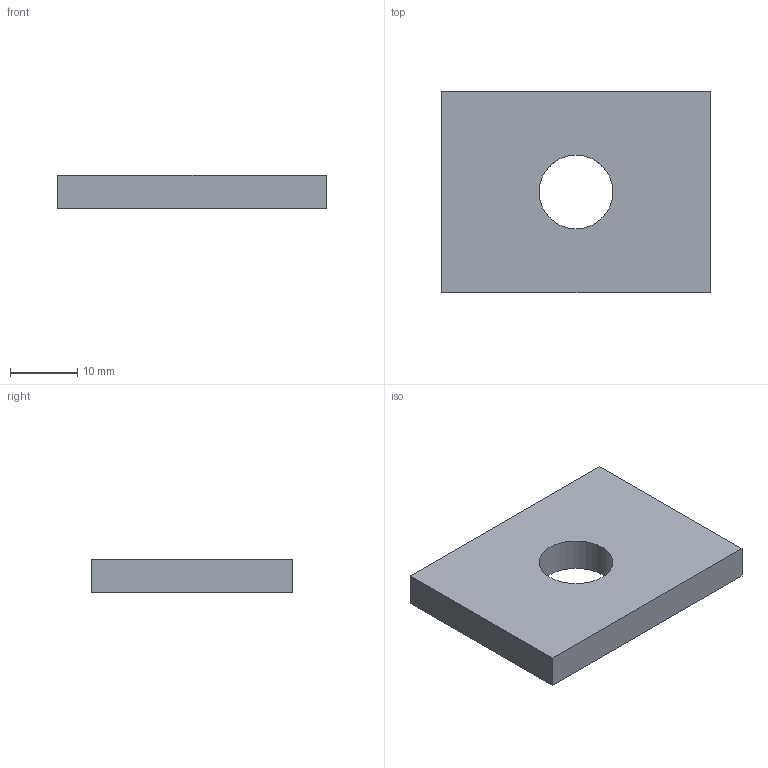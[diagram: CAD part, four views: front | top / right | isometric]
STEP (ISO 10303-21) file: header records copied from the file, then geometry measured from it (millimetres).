
FILE_DESCRIPTION(('Open CASCADE Model'),'2;1');
FILE_NAME('Open CASCADE Shape Model','2026-10-26T07:39:07',('Author'),( 'Open CASCADE'),'Open CASCADE STEP processor 7.9','Open CASCADE 7.9' ,'Unknown');
FILE_SCHEMA(('AUTOMOTIVE_DESIGN { 1 0 10303 214 1 1 1 1 }'));
Length unit declared in the file: millimetre
Products named in the file (1): Open CASCADE STEP translator 7.9 1
Bounding box: 40 x 30 x 5 mm (x, y, z)
Volume: 5524.8 mm3; surface area: 3082.7 mm2
Topology: 1 solids, 1 shells, 7 faces, 15 edges, 10 vertices
Faces by surface type: plane 6, cylinder 1
Full cylindrical faces by diameter (mm): 11 x1
Entity records: 406 total; most frequent: CARTESIAN_POINT 75, DIRECTION 61, LINE 41, VECTOR 41, ORIENTED_EDGE 30, PCURVE 30, DEFINITIONAL_REPRESENTATION 30, EDGE_CURVE 15
